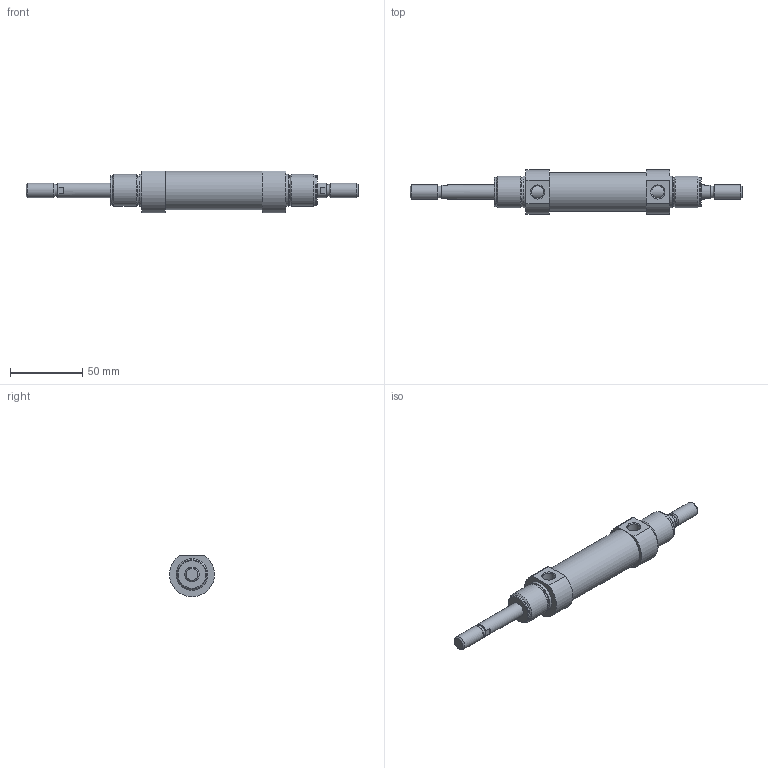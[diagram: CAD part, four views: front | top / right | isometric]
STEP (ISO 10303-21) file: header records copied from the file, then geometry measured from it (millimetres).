
FILE_DESCRIPTION( ( 'STEP AP203' ), '1' );
FILE_NAME( '//expscmdclustefs.cadenas.external/client_exchange/iodir/jobs/output/wkb68464949_no0/STEP/M101-025-0030--__0__2_03.stp', ' ', ( ' ' ), ( ' ' ), 'PSStep 15.0.47', 'PARTsolutions', ' ' );
FILE_SCHEMA( ( 'CONFIG_CONTROL_DESIGN' ) );
Length unit declared in the file: millimetre
Products named in the file (3): M101-025-0030-- [0]; HI_M101-025-0030---[0]-z; HI_M101-025-0030---[0]-k
Assembly tree (2 placements, depth 2):
  M101-025-0030-- [0]
    HI_M101-025-0030---[0]-z
    HI_M101-025-0030---[0]-k
Bounding box: 229 x 31 x 28.79 mm (x, y, z)
Volume: 70074.5 mm3; surface area: 29512.5 mm2
Topology: 2 solids, 2 shells, 63 faces, 123 edges, 74 vertices
Faces by surface type: plane 28, cylinder 23, cone 10, torus 2
Full cylindrical faces by diameter (mm): 8.16 x2, 8.566 x2, 10 x6, 20.16 x4, 22 x4, 25 x2, 26.6 x1
Entity records: 1700 total; most frequent: CARTESIAN_POINT 390, DIRECTION 276, ORIENTED_EDGE 176, AXIS2_PLACEMENT_3D 124, EDGE_LOOP 112, EDGE_CURVE 88, FACE_OUTER_BOUND 86, VERTEX_POINT 72
